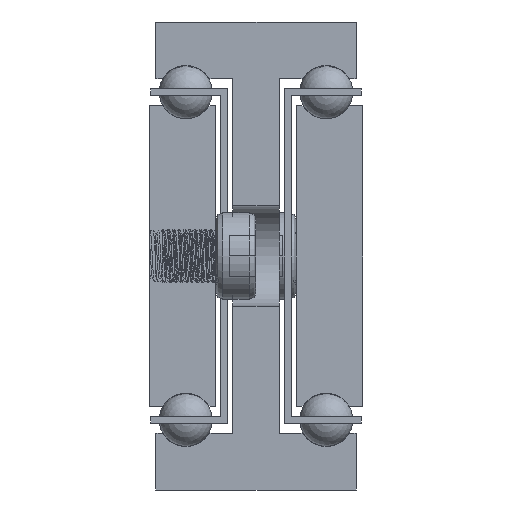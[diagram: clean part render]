
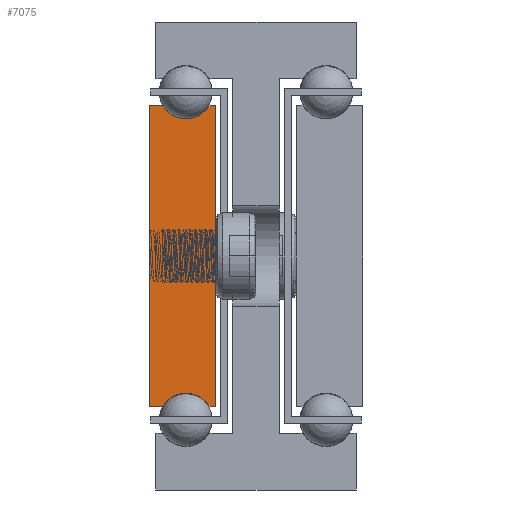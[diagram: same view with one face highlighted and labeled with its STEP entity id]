
A CAD part, front view. The second image highlights one B-rep face of the part: STEP entity #7075.
In plain terms, the highlighted planar face has unit normal (0, -1, 0).
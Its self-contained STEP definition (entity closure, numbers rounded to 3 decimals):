
#1157=CIRCLE('',#7619,4.);
#1159=CIRCLE('',#7625,4.);
#1769=FACE_OUTER_BOUND('',#2229,.T.);
#2229=EDGE_LOOP('',(#5606,#5607,#5608,#5609,#5610,#5611,#5612,#5613));
#3008=LINE('',#98657,#3220);
#3011=LINE('',#98663,#3223);
#3015=LINE('',#98675,#3227);
#3018=LINE('',#98681,#3230);
#3021=LINE('',#98687,#3233);
#3025=LINE('',#98697,#3237);
#3220=VECTOR('',#8538,1.);
#3223=VECTOR('',#8543,1.);
#3227=VECTOR('',#8555,1.);
#3230=VECTOR('',#8560,1.);
#3233=VECTOR('',#8565,1.);
#3237=VECTOR('',#8577,1.);
#3520=VERTEX_POINT('',#98654);
#3521=VERTEX_POINT('',#98656);
#3523=VERTEX_POINT('',#98662);
#3525=VERTEX_POINT('',#98668);
#3527=VERTEX_POINT('',#98674);
#3529=VERTEX_POINT('',#98680);
#3531=VERTEX_POINT('',#98686);
#3533=VERTEX_POINT('',#98692);
#4422=EDGE_CURVE('',#3521,#3520,#3008,.T.);
#4425=EDGE_CURVE('',#3523,#3521,#3011,.T.);
#4428=EDGE_CURVE('',#3525,#3523,#1157,.T.);
#4431=EDGE_CURVE('',#3527,#3525,#3015,.T.);
#4434=EDGE_CURVE('',#3529,#3527,#3018,.T.);
#4437=EDGE_CURVE('',#3531,#3529,#3021,.T.);
#4440=EDGE_CURVE('',#3533,#3531,#1159,.T.);
#4443=EDGE_CURVE('',#3520,#3533,#3025,.T.);
#5606=ORIENTED_EDGE('',*,*,#4443,.T.);
#5607=ORIENTED_EDGE('',*,*,#4440,.T.);
#5608=ORIENTED_EDGE('',*,*,#4437,.T.);
#5609=ORIENTED_EDGE('',*,*,#4434,.T.);
#5610=ORIENTED_EDGE('',*,*,#4431,.T.);
#5611=ORIENTED_EDGE('',*,*,#4428,.T.);
#5612=ORIENTED_EDGE('',*,*,#4425,.T.);
#5613=ORIENTED_EDGE('',*,*,#4422,.T.);
#6929=PLANE('',#7628);
#7075=ADVANCED_FACE('',(#1769),#6929,.T.);
#7619=AXIS2_PLACEMENT_3D('',#98669,#8549,#8550);
#7625=AXIS2_PLACEMENT_3D('',#98693,#8571,#8572);
#7628=AXIS2_PLACEMENT_3D('',#98699,#8580,#8581);
#8538=DIRECTION('',(0.,0.,-1.));
#8543=DIRECTION('',(-1.,0.,0.));
#8549=DIRECTION('center_axis',(0.,1.,0.));
#8550=DIRECTION('ref_axis',(-0.866,0.,-0.5));
#8555=DIRECTION('',(-1.,0.,0.));
#8560=DIRECTION('',(0.,0.,1.));
#8565=DIRECTION('',(1.,0.,0.));
#8571=DIRECTION('center_axis',(0.,1.,0.));
#8572=DIRECTION('ref_axis',(0.866,0.,0.5));
#8577=DIRECTION('',(1.,0.,0.));
#8580=DIRECTION('center_axis',(0.,-1.,0.));
#8581=DIRECTION('ref_axis',(1.,0.,0.));
#98654=CARTESIAN_POINT('',(-1462.791,-728.889,-57.5));
#98656=CARTESIAN_POINT('',(-1462.791,-728.889,-12.5));
#98657=CARTESIAN_POINT('',(-1462.791,-728.889,-57.5));
#98662=CARTESIAN_POINT('',(-1460.755,-728.889,-12.5));
#98663=CARTESIAN_POINT('',(-1462.791,-728.889,-12.5));
#98668=CARTESIAN_POINT('',(-1453.827,-728.889,-12.5));
#98669=CARTESIAN_POINT('Origin',(-1457.291,-728.889,-10.5));
#98674=CARTESIAN_POINT('',(-1452.791,-728.889,-12.5));
#98675=CARTESIAN_POINT('',(-1453.827,-728.889,-12.5));
#98680=CARTESIAN_POINT('',(-1452.791,-728.889,-57.5));
#98681=CARTESIAN_POINT('',(-1452.791,-728.889,-12.5));
#98686=CARTESIAN_POINT('',(-1453.827,-728.889,-57.5));
#98687=CARTESIAN_POINT('',(-1452.791,-728.889,-57.5));
#98692=CARTESIAN_POINT('',(-1460.755,-728.889,-57.5));
#98693=CARTESIAN_POINT('Origin',(-1457.291,-728.889,-59.5));
#98697=CARTESIAN_POINT('',(-1460.755,-728.889,-57.5));
#98699=CARTESIAN_POINT('Origin',(-1457.797,-728.889,-35.));
